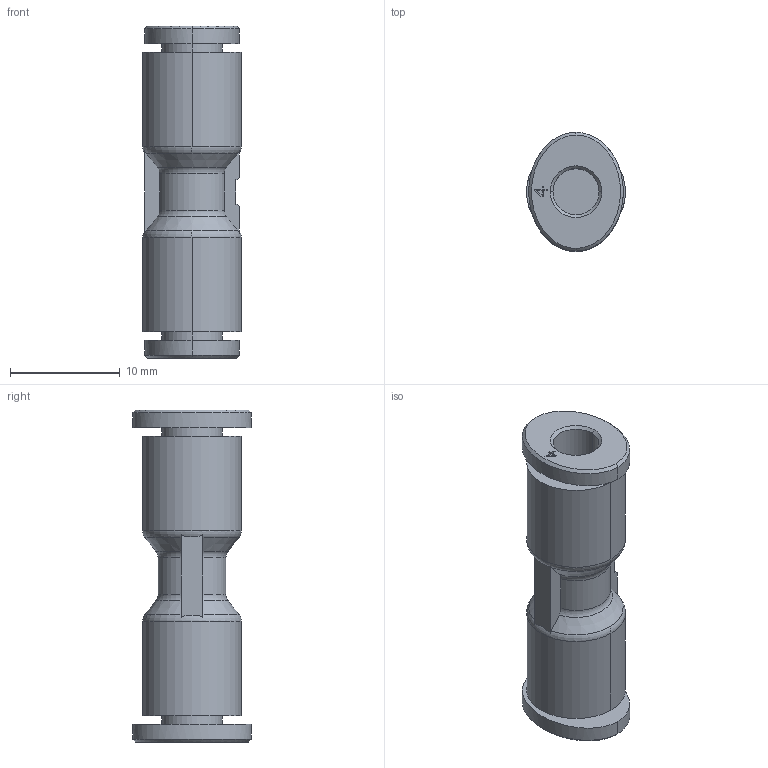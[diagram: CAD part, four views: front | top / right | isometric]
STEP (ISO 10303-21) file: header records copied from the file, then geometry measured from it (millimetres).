
FILE_DESCRIPTION((''),'2;1');
FILE_NAME('2121504000','2021-11-02T09:48:19',('PDH2HC'),(''),'CREO PARAMETRIC BY PTC INC, 2020044','CREO PARAMETRIC BY PTC INC, 2020044','');
FILE_SCHEMA(('AUTOMOTIVE_DESIGN { 1 0 10303 214 1 1 1 1 }'));
Length unit declared in the file: millimetre
Products named in the file (1): 2121504000
Bounding box: 9 x 10.8 x 30.2 mm (x, y, z)
Volume: 1311.4 mm3; surface area: 1535.6 mm2
Topology: 1 solids, 1 shells, 88 faces, 216 edges, 140 vertices
Faces by surface type: plane 50, cylinder 14, cone 8, torus 8, extrusion 4, bspline 4
Entity records: 3836 total; most frequent: CARTESIAN_POINT 1587, ORIENTED_EDGE 432, DIRECTION 430, EDGE_CURVE 216, AXIS2_PLACEMENT_3D 149, VERTEX_POINT 140, VECTOR 132, LINE 128
